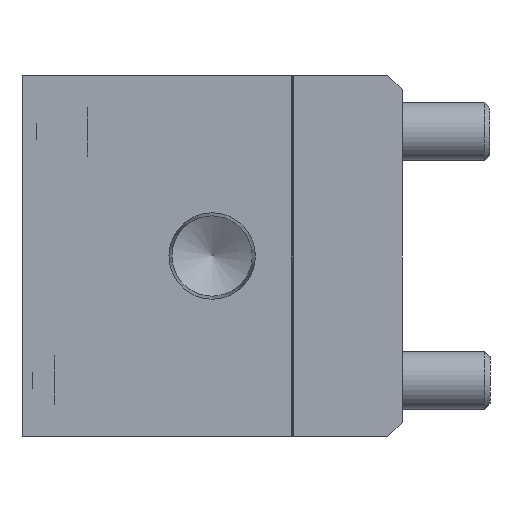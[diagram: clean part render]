
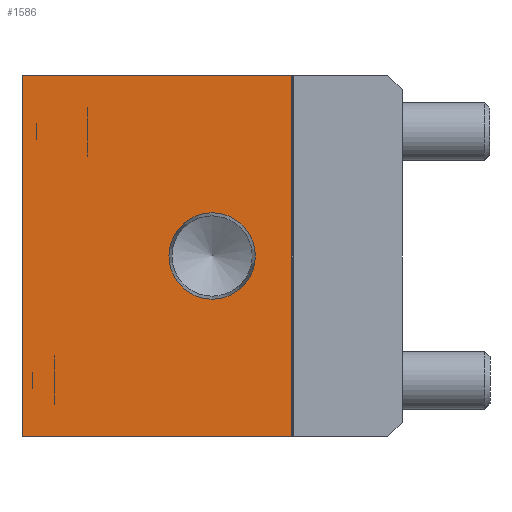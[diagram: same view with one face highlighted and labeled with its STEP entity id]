
A CAD part, left-side view. The second image highlights one B-rep face of the part: STEP entity #1586.
In plain terms, the highlighted planar face has unit normal (-1, 0, 0).
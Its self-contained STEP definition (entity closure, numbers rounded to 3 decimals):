
#1586 = ADVANCED_FACE( '', ( #3705, #3706 ), #3707, .F. );
#3705 = FACE_BOUND( '', #6466, .T. );
#3706 = FACE_OUTER_BOUND( '', #6467, .T. );
#3707 = PLANE( '', #6468 );
#6466 = EDGE_LOOP( '', ( #10349 ) );
#6467 = EDGE_LOOP( '', ( #10350, #10351, #10352, #10353 ) );
#6468 = AXIS2_PLACEMENT_3D( '', #10354, #10355, #10356 );
#10349 = ORIENTED_EDGE( '', *, *, #15567, .T. );
#10350 = ORIENTED_EDGE( '', *, *, #15568, .F. );
#10351 = ORIENTED_EDGE( '', *, *, #15569, .F. );
#10352 = ORIENTED_EDGE( '', *, *, #15570, .T. );
#10353 = ORIENTED_EDGE( '', *, *, #14853, .T. );
#10354 = CARTESIAN_POINT( '', ( 0., 52., 24.75 ) );
#10355 = DIRECTION( '', ( 1., 0., 0. ) );
#10356 = DIRECTION( '', ( 0., 0., -1. ) );
#14853 = EDGE_CURVE( '', #17467, #17390, #17470, .T. );
#15567 = EDGE_CURVE( '', #18583, #18583, #18584, .T. );
#15568 = EDGE_CURVE( '', #18585, #17390, #18586, .T. );
#15569 = EDGE_CURVE( '', #18587, #18585, #18588, .T. );
#15570 = EDGE_CURVE( '', #18587, #17467, #18589, .T. );
#17390 = VERTEX_POINT( '', #20835 );
#17467 = VERTEX_POINT( '', #20944 );
#17470 = LINE( '', #20949, #20950 );
#18583 = VERTEX_POINT( '', #22404 );
#18584 = CIRCLE( '', #22405, 5.91 );
#18585 = VERTEX_POINT( '', #22406 );
#18586 = LINE( '', #22407, #22408 );
#18587 = VERTEX_POINT( '', #22409 );
#18588 = LINE( '', #22410, #22411 );
#18589 = LINE( '', #22412, #22413 );
#20835 = CARTESIAN_POINT( '', ( 0., 15.1, -24.75 ) );
#20944 = CARTESIAN_POINT( '', ( 0., 52., -24.75 ) );
#20949 = CARTESIAN_POINT( '', ( 0., 52., -24.75 ) );
#20950 = VECTOR( '', #24854, 1000. );
#22404 = CARTESIAN_POINT( '', ( 0., 26., -5.91 ) );
#22405 = AXIS2_PLACEMENT_3D( '', #25721, #25722, #25723 );
#22406 = CARTESIAN_POINT( '', ( 0., 15.1, 24.75 ) );
#22407 = CARTESIAN_POINT( '', ( 0., 15.1, 24.75 ) );
#22408 = VECTOR( '', #25724, 1000. );
#22409 = CARTESIAN_POINT( '', ( 0., 52., 24.75 ) );
#22410 = CARTESIAN_POINT( '', ( 0., 52., 24.75 ) );
#22411 = VECTOR( '', #25725, 1000. );
#22412 = CARTESIAN_POINT( '', ( 0., 52., 24.75 ) );
#22413 = VECTOR( '', #25726, 1000. );
#24854 = DIRECTION( '', ( 0., -1., 0. ) );
#25721 = CARTESIAN_POINT( '', ( 0., 26., 0. ) );
#25722 = DIRECTION( '', ( 1., 0., 0. ) );
#25723 = DIRECTION( '', ( 0., 0., -1. ) );
#25724 = DIRECTION( '', ( 0., 0., -1. ) );
#25725 = DIRECTION( '', ( 0., -1., 0. ) );
#25726 = DIRECTION( '', ( 0., 0., -1. ) );
